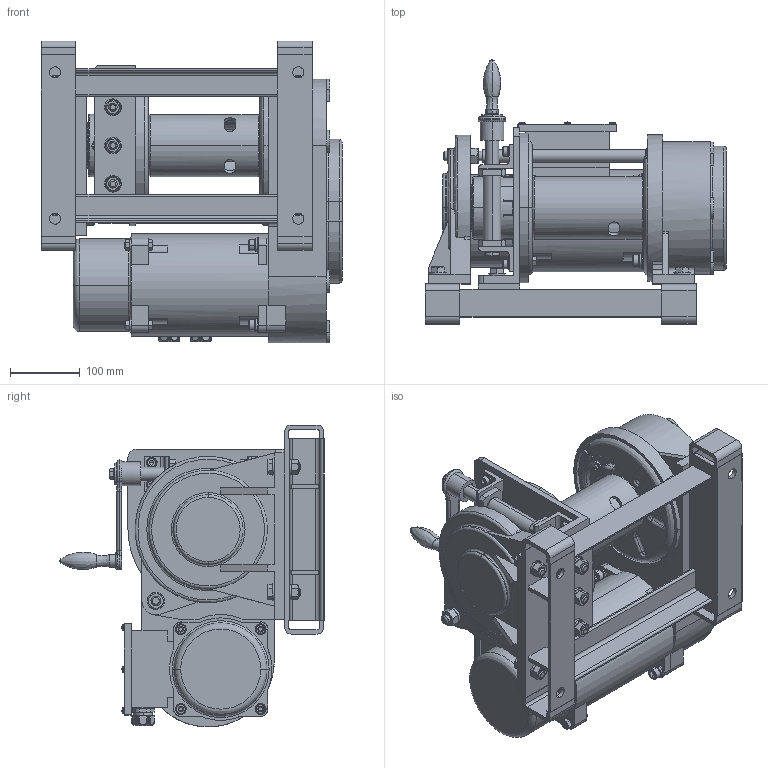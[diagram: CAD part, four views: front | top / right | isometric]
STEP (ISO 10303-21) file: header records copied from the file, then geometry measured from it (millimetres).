
FILE_DESCRIPTION( (''), '2;1');
FILE_NAME ('BMW-303-SC.stp','2023-05-12T16:59:26',(''),(''),'spGate 19.8.2 (****-****-****-****)','','');
FILE_SCHEMA (('AUTOMOTIVE_DESIGN'));
Length unit declared in the file: millimetre
Products named in the file (5): Assembly; BMW-303-SC-prt0; BMW-303-SC-prt1; BMW-303-SC-prt2; BMW-303-SC-prt3
Assembly tree (4 placements, depth 2):
  Assembly
    BMW-303-SC-prt0
    BMW-303-SC-prt1
    BMW-303-SC-prt2
    BMW-303-SC-prt3
Bounding box: 433 x 379.3 x 433.3 mm (x, y, z)
Volume: 15790446.6 mm3; surface area: 1449984.6 mm2
Topology: 1 solids, 1 shells, 2679 faces, 6896 edges, 4326 vertices
Faces by surface type: plane 1481, cylinder 743, bspline 413, sphere 42
Entity records: 143554 total; most frequent: CARTESIAN_POINT 25778, ORIENTED_EDGE 13700, DIRECTION 12804, COLOUR_RGB 9533, PRESENTATION_STYLE_ASSIGNMENT 9533, STYLED_ITEM 9533, EDGE_CURVE 6850, DRAUGHTING_PRE_DEFINED_CURVE_FONT 6850
